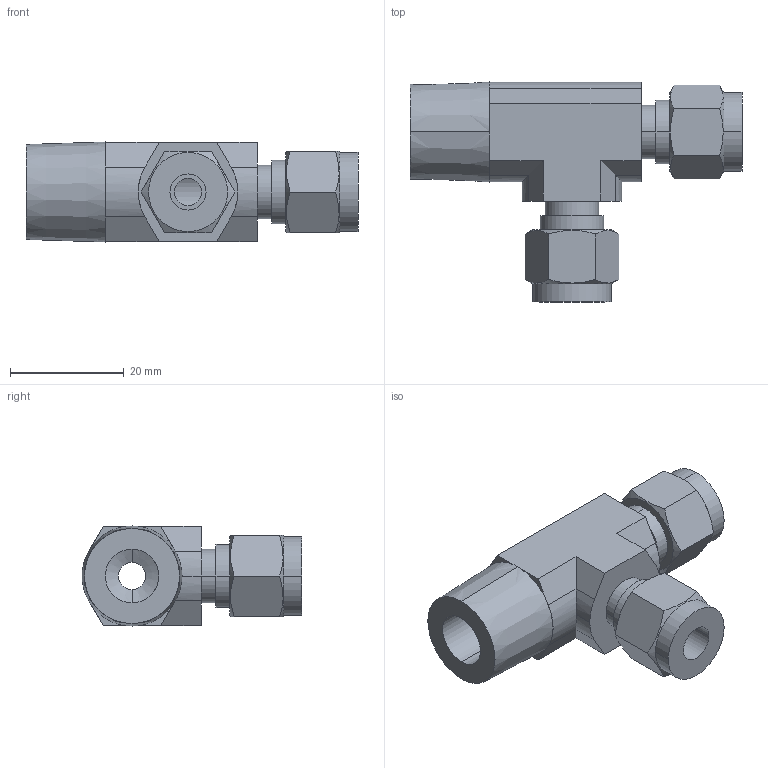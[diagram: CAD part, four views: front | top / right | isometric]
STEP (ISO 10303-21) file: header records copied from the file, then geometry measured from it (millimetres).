
FILE_DESCRIPTION (( 'STEP AP203' ), '1' );
FILE_NAME ('DTK 04-06 SS.STEP', '2009-09-08T10:03:06', ( ' ' ), ( '' ), 'SwSTEP 2.0', 'SolidWorks 2008', '' );
FILE_SCHEMA (( 'CONFIG_CONTROL_DESIGN' ));
Length unit declared in the file: millimetre
Products named in the file (1): DTK 04-06 SS
Bounding box: 58.4 x 38.7 x 17.6 mm (x, y, z)
Volume: 12726 mm3; surface area: 6866.5 mm2
Topology: 1 solids, 1 shells, 83 faces, 201 edges, 128 vertices
Faces by surface type: plane 43, cylinder 28, cone 12
Entity records: 2751 total; most frequent: CARTESIAN_POINT 738, ORIENTED_EDGE 402, DIRECTION 399, EDGE_CURVE 201, AXIS2_PLACEMENT_3D 151, VERTEX_POINT 128, VECTOR 97, LINE 97
